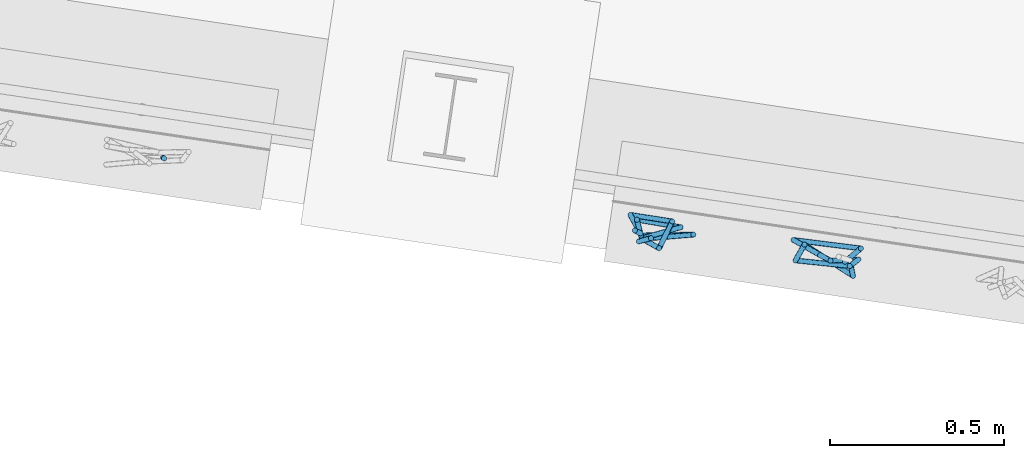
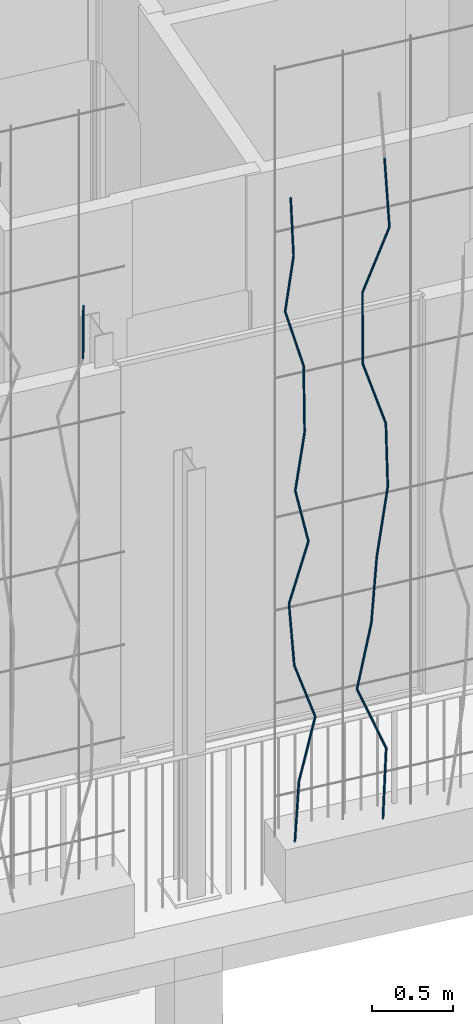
# One storey, part 116 of 142: 22 members, 1 element without a shape of its own.
"""IFC4 building model written with IfcOpenShell, lengths in metres."""

from ifc_helpers import new_model, si_unit, direction, frame, origin_with_axes, place, context, subcontext, project, spatial, circle, extrude, material, material_profile, profile_set, profile_usage, type_object, element, aggregate, save


model = new_model("IFC4")

# Units and contexts
model_context = context("Model", 3, precision=1e-05, world=origin_with_axes(), true_north=direction((0.0, 1.0)))
body_context = subcontext(model_context, "Body", "Model", "MODEL_VIEW")
ifc_project = project(units=[si_unit("AREAUNIT", "SQUARE_METRE"), si_unit("VOLUMEUNIT", "CUBIC_METRE"), si_unit("LENGTHUNIT", "METRE")], contexts=[model_context])

# Site, building, storey
site_placement = place(None, origin_with_axes())
site = spatial("IfcSite", under=ifc_project, at=site_placement, Name="Lares · Rua das Mercês · artigo 4771")
building_placement = place(site_placement, frame((15.0, 9.7, 14.65), z_axis=(0.0, 0.0, 1.0), x_axis=(0.989015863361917, -0.147809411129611, 0.0)))
building = spatial("IfcBuilding", under=site, at=building_placement, Name="Casa Sobreposta")
storey_placement = place(building_placement, origin_with_axes())
storey = spatial("IfcBuildingStorey", under=building, at=storey_placement, Name="00 · Habitação e estacionamento", Elevation=14.65)

# Assembly, members
assembly_placement = place(storey_placement, origin_with_axes())
assembly = element("IfcElementAssembly", 1, at=assembly_placement, inside=storey, Name="Fachada sul e pátio · estrutura e trepadeiras", ObjectType="LIVING_SHADE_TRELLIS", PredefinedType="USERDEFINED")
ifc_material = material(Name="Ramos de trepadeiras", Category="wood")
ifc_material_profile = material_profile(ifc_material, circle(Radius=0.0075))
ifc_profile_set = profile_set([ifc_material_profile], Name="D0.015")
ifc_profile_usage_1 = profile_usage(ifc_profile_set)
member_type = type_object("IfcMemberType", Name="D0.015 / vine_wood", PredefinedType="NOTDEFINED", material=ifc_profile_set)
member_1_placement = place(assembly_placement, frame((7.20002042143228, -1.67772191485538, 4.32719196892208), z_axis=(0.00748324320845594, -0.00300707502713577, 0.999967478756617), x_axis=(0.999972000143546, 2.25033038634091e-05, -0.00748320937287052)))
member_1 = element("IfcMember", 2, at=member_1_placement, type_object=member_type, material=ifc_profile_usage_1, Name="Trepadeiras · ramo", context=body_context, shape_type="SweptSolid", body=[
    extrude(circle(Radius=0.0075), origin_with_axes(), (0.0, 0.0, 1.0), 0.397732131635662),
])
ifc_profile_usage_2 = profile_usage(ifc_profile_set)
member_2_placement = place(assembly_placement, frame((8.59054246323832, -1.7135149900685, 0.35), z_axis=(0.074725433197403, 0.0323628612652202, 0.996678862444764), x_axis=(0.397419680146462, -0.917636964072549, 0.0)))
member_2 = element("IfcMember", 3, at=member_2_placement, type_object=member_type, material=ifc_profile_usage_2, Name="Trepadeiras · ramo", context=body_context, shape_type="SweptSolid", body=[
    extrude(circle(Radius=0.0075), origin_with_axes(), (0.0, 0.0, 1.0), 0.441355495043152),
])
ifc_profile_usage_3 = profile_usage(ifc_profile_set)
member_3_placement = place(assembly_placement, frame((8.62352294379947, -1.69923146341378, 0.789889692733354), z_axis=(0.260931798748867, 0.0614456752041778, 0.963399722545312), x_axis=(0.22921591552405, -0.973375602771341, 0.0)))
member_3 = element("IfcMember", 4, at=member_3_placement, type_object=member_type, material=ifc_profile_usage_3, Name="Trepadeiras · ramo", context=body_context, shape_type="SweptSolid", body=[
    extrude(circle(Radius=0.0075), origin_with_axes(), (0.0, 0.0, 1.0), 0.456601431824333),
])
ifc_profile_usage_4 = profile_usage(ifc_profile_set)
member_4_placement = place(assembly_placement, frame((8.7426647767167, -1.67117528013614, 1.22977938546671), z_axis=(-0.320146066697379, -0.0527548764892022, 0.945898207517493), x_axis=(-0.162591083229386, 0.986693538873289, 0.0)))
member_4 = element("IfcMember", 5, at=member_4_placement, type_object=member_type, material=ifc_profile_usage_4, Name="Trepadeiras · ramo", context=body_context, shape_type="SweptSolid", body=[
    extrude(circle(Radius=0.0075), origin_with_axes(), (0.0, 0.0, 1.0), 0.465049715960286),
])
ifc_profile_usage_5 = profile_usage(ifc_profile_set)
member_5_placement = place(assembly_placement, frame((8.59378093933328, -1.69570892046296, 1.66966907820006), z_axis=(-0.0407011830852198, 0.0974124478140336, 0.994411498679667), x_axis=(0.922697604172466, 0.385524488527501, 0.0)))
member_5 = element("IfcMember", 6, at=member_5_placement, type_object=member_type, material=ifc_profile_usage_5, Name="Trepadeiras · ramo", context=body_context, shape_type="SweptSolid", body=[
    extrude(circle(Radius=0.0075), origin_with_axes(), (0.0, 0.0, 1.0), 0.442361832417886),
])
ifc_profile_usage_6 = profile_usage(ifc_profile_set)
member_6_placement = place(assembly_placement, frame((8.57577628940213, -1.65261737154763, 2.10955877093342), z_axis=(0.279160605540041, -0.00602327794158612, 0.960225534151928), x_axis=(-0.0215713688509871, -0.999767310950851, 0.0)))
member_6 = element("IfcMember", 7, at=member_6_placement, type_object=member_type, material=ifc_profile_usage_6, Name="Trepadeiras · ramo", context=body_context, shape_type="SweptSolid", body=[
    extrude(circle(Radius=0.0075), origin_with_axes(), (0.0, 0.0, 1.0), 0.458110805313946),
])
ifc_profile_usage_7 = profile_usage(ifc_profile_set)
member_7_placement = place(assembly_placement, frame((8.70366277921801, -1.65537670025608, 2.54944846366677), z_axis=(-0.233601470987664, -0.106950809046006, 0.966432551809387), x_axis=(-0.416279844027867, 0.90923654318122, 0.0)))
member_7 = element("IfcMember", 8, at=member_7_placement, type_object=member_type, material=ifc_profile_usage_7, Name="Trepadeiras · ramo", context=body_context, shape_type="SweptSolid", body=[
    extrude(circle(Radius=0.0075), origin_with_axes(), (0.0, 0.0, 1.0), 0.455168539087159),
])
ifc_profile_usage_8 = profile_usage(ifc_profile_set)
member_8_placement = place(assembly_placement, frame((8.59733473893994, -1.70405734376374, 2.98933815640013), z_axis=(0.121360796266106, -0.0456594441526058, 0.991557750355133), x_axis=(-0.352131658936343, -0.93595047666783, 0.0)))
member_8 = element("IfcMember", 9, at=member_8_placement, type_object=member_type, material=ifc_profile_usage_8, Name="Trepadeiras · ramo", context=body_context, shape_type="SweptSolid", body=[
    extrude(circle(Radius=0.0075), origin_with_axes(), (0.0, 0.0, 1.0), 0.443634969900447),
])
ifc_profile_usage_9 = profile_usage(ifc_profile_set)
member_9_placement = place(assembly_placement, frame((8.65117463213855, -1.72431346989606, 3.42922784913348), z_axis=(0.0577712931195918, 0.182961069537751, 0.981421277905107), x_axis=(0.953591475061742, -0.301103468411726, 0.0)))
member_9 = element("IfcMember", 10, at=member_9_placement, type_object=member_type, material=ifc_profile_usage_9, Name="Trepadeiras · ramo", context=body_context, shape_type="SweptSolid", body=[
    extrude(circle(Radius=0.0075), origin_with_axes(), (0.0, 0.0, 1.0), 0.448216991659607),
])
ifc_profile_usage_10 = profile_usage(ifc_profile_set)
member_10_placement = place(assembly_placement, frame((8.6770687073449, -1.64230720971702, 3.86911754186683), z_axis=(-0.26759400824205, 0.00154657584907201, 0.96353051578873), x_axis=(0.00577946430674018, 0.999983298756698, 0.0)))
member_10 = element("IfcMember", 11, at=member_10_placement, type_object=member_type, material=ifc_profile_usage_10, Name="Trepadeiras · ramo", context=body_context, shape_type="SweptSolid", body=[
    extrude(circle(Radius=0.0075), origin_with_axes(), (0.0, 0.0, 1.0), 0.456539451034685),
])
ifc_profile_usage_11 = profile_usage(ifc_profile_set)
member_11_placement = place(assembly_placement, frame((8.5549014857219, -1.6416011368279, 4.30900723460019), z_axis=(0.0826915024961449, -0.10823453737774, 0.990680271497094), x_axis=(-0.794627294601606, -0.607097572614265, 0.0)))
member_11 = element("IfcMember", 12, at=member_11_placement, type_object=member_type, material=ifc_profile_usage_11, Name="Trepadeiras · ramo", context=body_context, shape_type="SweptSolid", body=[
    extrude(circle(Radius=0.0075), origin_with_axes(), (0.0, 0.0, 1.0), 0.444027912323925),
])
ifc_profile_usage_12 = profile_usage(ifc_profile_set)
member_12_placement = place(assembly_placement, frame((8.59161882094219, -1.68966029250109, 4.74889692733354), z_axis=(-0.0384160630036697, 0.0118576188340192, 0.999191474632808), x_axis=(0.999261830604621, 0.000455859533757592, 0.0384133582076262)))
member_12 = element("IfcMember", 13, at=member_12_placement, type_object=member_type, material=ifc_profile_usage_12, Name="Trepadeiras · ramo", context=body_context, shape_type="SweptSolid", body=[
    extrude(circle(Radius=0.0075), origin_with_axes(), (0.0, 0.0, 1.0), 0.440245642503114),
])
ifc_profile_usage_13 = profile_usage(ifc_profile_set)
member_13_placement = place(assembly_placement, frame((9.18640022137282, -1.68378506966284, 0.35), z_axis=(0.0784694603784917, 0.0892745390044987, 0.992911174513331), x_axis=(0.751097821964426, -0.660190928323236, 0.0)))
member_13 = element("IfcMember", 14, at=member_13_placement, type_object=member_type, material=ifc_profile_usage_13, Name="Trepadeiras · ramo", context=body_context, shape_type="SweptSolid", body=[
    extrude(circle(Radius=0.0075), origin_with_axes(), (0.0, 0.0, 1.0), 0.501089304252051),
])
ifc_profile_usage_14 = profile_usage(ifc_profile_set)
member_14_placement = place(assembly_placement, frame((9.22572042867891, -1.63905055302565, 0.847537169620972), z_axis=(-0.36542380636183, -0.00871687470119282, 0.930800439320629), x_axis=(-0.0238473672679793, 0.999715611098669, 0.0)))
member_14 = element("IfcMember", 15, at=member_14_placement, type_object=member_type, material=ifc_profile_usage_14, Name="Trepadeiras · ramo", context=body_context, shape_type="SweptSolid", body=[
    extrude(circle(Radius=0.0075), origin_with_axes(), (0.0, 0.0, 1.0), 0.534526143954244),
])
ifc_profile_usage_15 = profile_usage(ifc_profile_set)
member_15_placement = place(assembly_placement, frame((9.03039185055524, -1.64370995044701, 1.34507433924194), z_axis=(0.163392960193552, -0.0633863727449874, 0.984522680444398), x_axis=(-0.361676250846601, -0.932303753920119, 0.0)))
member_15 = element("IfcMember", 16, at=member_15_placement, type_object=member_type, material=ifc_profile_usage_15, Name="Trepadeiras · ramo", context=body_context, shape_type="SweptSolid", body=[
    extrude(circle(Radius=0.0075), origin_with_axes(), (0.0, 0.0, 1.0), 0.505358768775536),
])
ifc_profile_usage_16 = profile_usage(ifc_profile_set)
member_16_placement = place(assembly_placement, frame((9.11296391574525, -1.67574280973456, 1.84261150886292), z_axis=(0.0632140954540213, -0.0219950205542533, 0.997757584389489), x_axis=(-0.328620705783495, -0.944461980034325, 0.0)))
member_16 = element("IfcMember", 17, at=member_16_placement, type_object=member_type, material=ifc_profile_usage_16, Name="Trepadeiras · ramo", context=body_context, shape_type="SweptSolid", body=[
    extrude(circle(Radius=0.0075), origin_with_axes(), (0.0, 0.0, 1.0), 0.49865536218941),
])
ifc_profile_usage_17 = profile_usage(ifc_profile_set)
member_17_placement = place(assembly_placement, frame((9.14448596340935, -1.68671074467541, 2.34014867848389), z_axis=(0.156733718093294, 0.030272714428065, 0.987176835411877), x_axis=(0.189642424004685, -0.981853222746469, 0.0)))
member_17 = element("IfcMember", 18, at=member_17_placement, type_object=member_type, material=ifc_profile_usage_17, Name="Trepadeiras · ramo", context=body_context, shape_type="SweptSolid", body=[
    extrude(circle(Radius=0.0075), origin_with_axes(), (0.0, 0.0, 1.0), 0.504000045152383),
])
ifc_profile_usage_18 = profile_usage(ifc_profile_set)
member_18_placement = place(assembly_placement, frame((9.22347976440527, -1.67145329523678, 2.83768584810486), z_axis=(-0.043628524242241, -0.0455250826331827, 0.998010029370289), x_axis=(-0.721985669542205, 0.691908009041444, 0.0)))
member_18 = element("IfcMember", 19, at=member_18_placement, type_object=member_type, material=ifc_profile_usage_18, Name="Trepadeiras · ramo", context=body_context, shape_type="SweptSolid", body=[
    extrude(circle(Radius=0.0075), origin_with_axes(), (0.0, 0.0, 1.0), 0.498529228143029),
])
ifc_profile_usage_19 = profile_usage(ifc_profile_set)
member_19_placement = place(assembly_placement, frame((9.20172966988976, -1.69414887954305, 3.33522301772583), z_axis=(-0.300800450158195, -0.0131721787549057, 0.95359613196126), x_axis=(-0.0437484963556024, 0.999042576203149, 0.0)))
member_19 = element("IfcMember", 20, at=member_19_placement, type_object=member_type, material=ifc_profile_usage_19, Name="Trepadeiras · ramo", context=body_context, shape_type="SweptSolid", body=[
    extrude(circle(Radius=0.0075), origin_with_axes(), (0.0, 0.0, 1.0), 0.521748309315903),
])
ifc_profile_usage_20 = profile_usage(ifc_profile_set)
member_20_placement = place(assembly_placement, frame((9.04478754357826, -1.70102144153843, 3.8327601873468), z_axis=(0.0376984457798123, 0.0974391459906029, 0.994527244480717), x_axis=(0.932632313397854, -0.360828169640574, 0.0)))
member_20 = element("IfcMember", 21, at=member_20_placement, type_object=member_type, material=ifc_profile_usage_20, Name="Trepadeiras · ramo", context=body_context, shape_type="SweptSolid", body=[
    extrude(circle(Radius=0.0075), origin_with_axes(), (0.0, 0.0, 1.0), 0.500275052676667),
])
ifc_profile_usage_21 = profile_usage(ifc_profile_set)
member_21_placement = place(assembly_placement, frame((9.06364713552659, -1.65227506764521, 4.33029735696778), z_axis=(0.288810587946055, -0.130428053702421, 0.94846031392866), x_axis=(-0.411580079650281, -0.911373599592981, 0.0)))
member_21 = element("IfcMember", 22, at=member_21_placement, type_object=member_type, material=ifc_profile_usage_21, Name="Trepadeiras · ramo", context=body_context, shape_type="SweptSolid", body=[
    extrude(circle(Radius=0.0075), origin_with_axes(), (0.0, 0.0, 1.0), 0.524573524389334),
])
ifc_profile_usage_22 = profile_usage(ifc_profile_set)
member_22_placement = place(assembly_placement, frame((9.2151495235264, -1.72069417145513, 4.82783452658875), z_axis=(-0.0315166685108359, 0.0862322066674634, 0.995776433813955), x_axis=(0.939234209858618, 0.343277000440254, 4.70366638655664e-18)))
member_22 = element("IfcMember", 23, at=member_22_placement, type_object=member_type, material=ifc_profile_usage_22, Name="Trepadeiras · ramo", context=body_context, shape_type="SweptSolid", body=[
    extrude(circle(Radius=0.0075), origin_with_axes(), (0.0, 0.0, 1.0), 0.499647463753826),
])
aggregate(assembly, [member_1, member_2, member_3, member_4, member_5, member_6, member_7, member_8, member_9, member_10, member_11, member_12, member_13, member_14, member_15, member_16, member_17, member_18, member_19, member_20, member_21, member_22])

save(model, "model.ifc")
